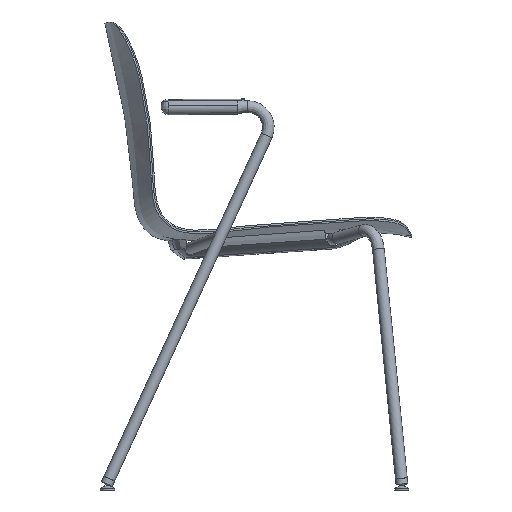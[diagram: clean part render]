
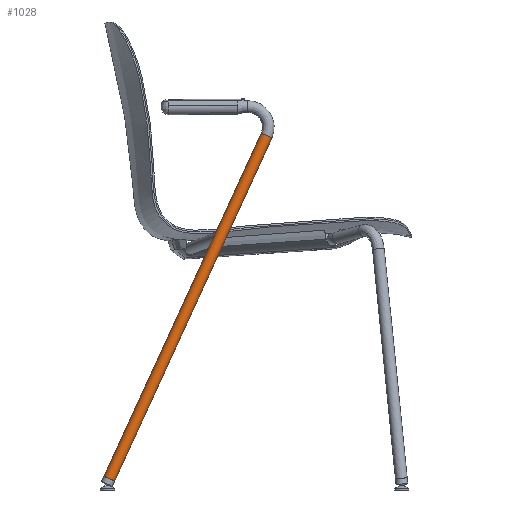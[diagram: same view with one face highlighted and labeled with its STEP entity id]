
A CAD part, left-side view. The second image highlights one B-rep face of the part: STEP entity #1028.
In plain terms, the highlighted cylindrical face has radius 10 mm (diameter 20 mm), a full revolution.
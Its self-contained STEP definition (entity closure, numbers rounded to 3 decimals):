
#1028=ADVANCED_FACE('',(#1958),#15162,.T.);
#1958=FACE_OUTER_BOUND('',#2973,.T.);
#2973=EDGE_LOOP('',(#7633,#7634,#7635,#7636));
#7633=ORIENTED_EDGE('',*,*,#10152,.F.);
#7634=ORIENTED_EDGE('',*,*,#10150,.T.);
#7635=ORIENTED_EDGE('',*,*,#10151,.F.);
#7636=ORIENTED_EDGE('',*,*,#10150,.F.);
#10150=EDGE_CURVE('',#14235,#14236,#12592,.T.);
#10151=EDGE_CURVE('',#14236,#14236,#12593,.T.);
#10152=EDGE_CURVE('',#14235,#14235,#12594,.T.);
#12592=(
BOUNDED_CURVE()
B_SPLINE_CURVE(3,(#74054,#74055,#74056,#74057),.UNSPECIFIED.,.F.,.F.)
B_SPLINE_CURVE_WITH_KNOTS((4,4),(0.,643.823),.UNSPECIFIED.)
CURVE()
GEOMETRIC_REPRESENTATION_ITEM()
RATIONAL_B_SPLINE_CURVE((1.,1.,1.,1.))
REPRESENTATION_ITEM('')
);
#12593=(
BOUNDED_CURVE()
B_SPLINE_CURVE(2,(#74058,#74059,#74060,#74061,#74062,#74063,#74064,#74065,
#74066),.UNSPECIFIED.,.T.,.F.)
B_SPLINE_CURVE_WITH_KNOTS((3,2,2,2,3),(0.,15.708,31.416,
47.124,62.832),.UNSPECIFIED.)
CURVE()
GEOMETRIC_REPRESENTATION_ITEM()
RATIONAL_B_SPLINE_CURVE((1.,0.707,1.,0.707,1.,0.707,
1.,0.707,1.))
REPRESENTATION_ITEM('')
);
#12594=(
BOUNDED_CURVE()
B_SPLINE_CURVE(2,(#74067,#74068,#74069,#74070,#74071,#74072,#74073,#74074,
#74075),.UNSPECIFIED.,.T.,.F.)
B_SPLINE_CURVE_WITH_KNOTS((3,2,2,2,3),(-62.832,-47.124,
-31.416,-15.708,0.),.UNSPECIFIED.)
CURVE()
GEOMETRIC_REPRESENTATION_ITEM()
RATIONAL_B_SPLINE_CURVE((1.,0.707,1.,0.707,1.,0.707,
1.,0.707,1.))
REPRESENTATION_ITEM('')
);
#14235=VERTEX_POINT('',#74050);
#14236=VERTEX_POINT('',#74051);
#15162=CYLINDRICAL_SURFACE('',#15841,10.);
#15841=AXIS2_PLACEMENT_3D('',#73949,#16405,$);
#16405=DIRECTION('',(0.043,-0.416,0.908));
#73949=CARTESIAN_POINT('',(-265.288,136.495,311.347));
#74050=CARTESIAN_POINT('',(-279.287,279.565,23.142));
#74051=CARTESIAN_POINT('',(-251.289,11.607,607.883));
#74054=CARTESIAN_POINT('',(-279.287,279.565,23.142));
#74055=CARTESIAN_POINT('',(-269.954,190.245,218.056));
#74056=CARTESIAN_POINT('',(-260.622,100.926,412.97));
#74057=CARTESIAN_POINT('',(-251.289,11.607,607.883));
#74058=CARTESIAN_POINT('',(-251.289,11.607,607.883));
#74059=CARTESIAN_POINT('',(-261.28,11.425,608.279));
#74060=CARTESIAN_POINT('',(-261.28,2.334,604.113));
#74061=CARTESIAN_POINT('',(-261.28,-6.756,599.947));
#74062=CARTESIAN_POINT('',(-251.289,-6.575,599.552));
#74063=CARTESIAN_POINT('',(-241.299,-6.394,599.156));
#74064=CARTESIAN_POINT('',(-241.299,2.697,603.322));
#74065=CARTESIAN_POINT('',(-241.299,11.788,607.488));
#74066=CARTESIAN_POINT('',(-251.289,11.607,607.883));
#74067=CARTESIAN_POINT('',(-279.287,279.565,23.142));
#74068=CARTESIAN_POINT('',(-269.296,279.746,22.746));
#74069=CARTESIAN_POINT('',(-269.296,270.655,18.581));
#74070=CARTESIAN_POINT('',(-269.296,261.564,14.415));
#74071=CARTESIAN_POINT('',(-279.287,261.383,14.81));
#74072=CARTESIAN_POINT('',(-289.277,261.202,15.205));
#74073=CARTESIAN_POINT('',(-289.277,270.293,19.371));
#74074=CARTESIAN_POINT('',(-289.277,279.384,23.537));
#74075=CARTESIAN_POINT('',(-279.287,279.565,23.142));
